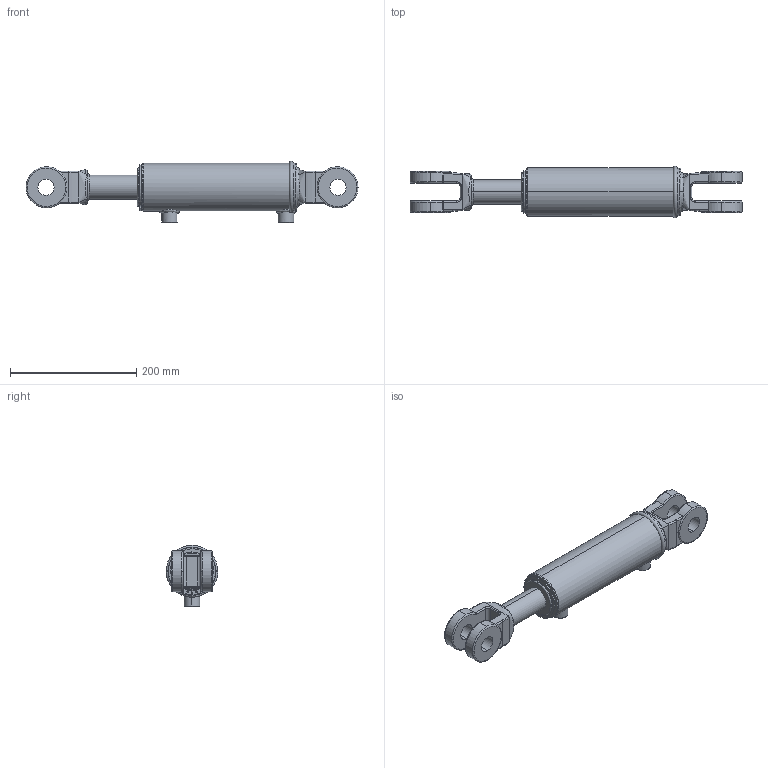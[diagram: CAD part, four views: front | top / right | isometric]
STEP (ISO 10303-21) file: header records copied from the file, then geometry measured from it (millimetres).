
FILE_DESCRIPTION (( 'STEP AP203' ), '1' );
FILE_NAME ('CL-CL250150x152 (6).STEP', '2014-12-18T16:33:32', ( '' ), ( '' ), 'SwSTEP 2.0', 'SolidWorks 2015', '' );
FILE_SCHEMA (( 'CONFIG_CONTROL_DESIGN' ));
Length unit declared in the file: millimetre
Products named in the file (4): 2.5 inch ext circlip; CL-CL250150x152 (6) body; SPARE 6; CL-CL250150x152 (6)
Assembly tree (3 placements, depth 2):
  CL-CL250150x152 (6)
    CL-CL250150x152 (6) body
    2.5 inch ext circlip
    SPARE 6
Bounding box: 526.39 x 82.18 x 97.2 mm (x, y, z)
Volume: 1650543.5 mm3; surface area: 185299.6 mm2
Topology: 3 solids, 3 shells, 210 faces, 512 edges, 315 vertices
Faces by surface type: cylinder 91, bspline 59, plane 37, torus 15, cone 8
Entity records: 11274 total; most frequent: CARTESIAN_POINT 6220, ORIENTED_EDGE 1016, DIRECTION 939, EDGE_CURVE 508, AXIS2_PLACEMENT_3D 392, VERTEX_POINT 315, CIRCLE 235, EDGE_LOOP 233
